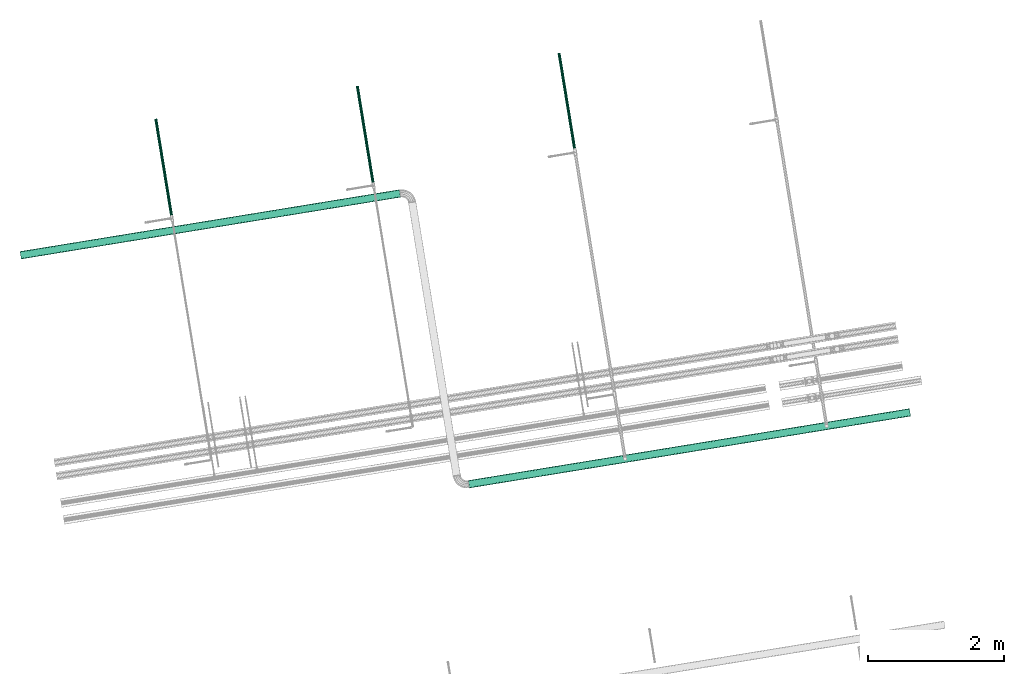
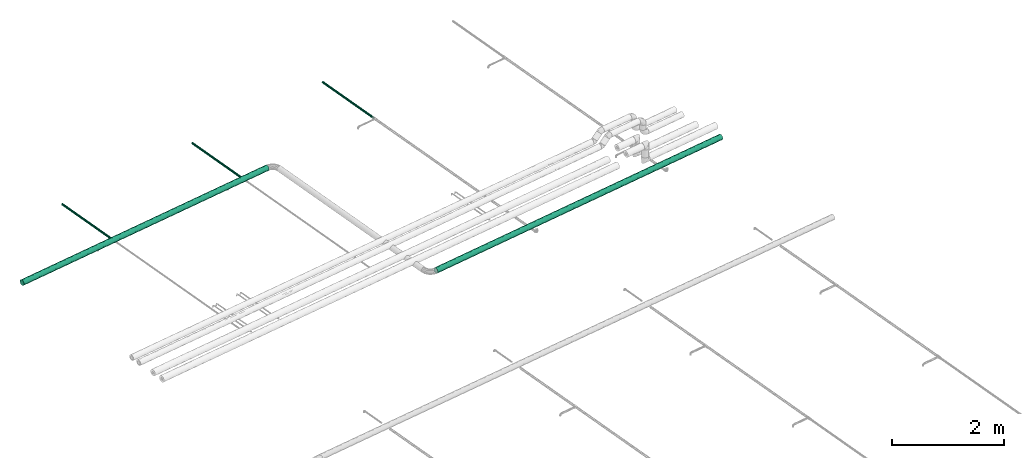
# One storey, part 52 of 56: 5 flow segments.
"""IFC2X3 building model written with IfcOpenShell, lengths in millimetres."""

from ifc_helpers import new_model, entity, si_unit, converted_unit, derived_unit, direction, frame, origin, origin_with_axes, place, context, subcontext, project, spatial, faceted_brep, material, type_object, element, save


model = new_model("IFC2X3")

# Units and contexts
model_context = context("Model", 3, precision=0.01, world=origin(), true_north=direction((6.12323399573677e-17, 1.0)))
plan_context = context("Plan", 3, precision=1e-05, world=origin_with_axes())
body_context = subcontext(model_context, "Body", "Model", "MODEL_VIEW")
ifc_project = project(units=[converted_unit("PLANEANGLEUNIT", "DEGREE", entity("IfcPositiveLengthMeasure", 0.0174532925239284), si_unit("PLANEANGLEUNIT", "RADIAN"), dimensions=[0, 0, 0, 0, 0, 0, 0]), si_unit("AREAUNIT", "SQUARE_METRE"), si_unit("LENGTHUNIT", "METRE", prefix="MILLI"), si_unit("MASSUNIT", "GRAM", prefix="KILO"), si_unit("POWERUNIT", "WATT"), si_unit("PRESSUREUNIT", "PASCAL", prefix="KILO"), si_unit("FORCEUNIT", "NEWTON", prefix="KILO"), si_unit("ELECTRICVOLTAGEUNIT", "VOLT"), si_unit("ELECTRICCURRENTUNIT", "AMPERE"), si_unit("THERMODYNAMICTEMPERATUREUNIT", "DEGREE_CELSIUS"), si_unit("TIMEUNIT", "SECOND"), si_unit("VOLUMEUNIT", "CUBIC_METRE"), derived_unit("LINEARVELOCITYUNIT", [(si_unit("LENGTHUNIT", "METRE"), 1), (si_unit("TIMEUNIT", "SECOND"), -1)]), derived_unit("VOLUMETRICFLOWRATEUNIT", [(si_unit("VOLUMEUNIT", "CUBIC_METRE"), 1), (si_unit("TIMEUNIT", "SECOND"), -1)]), derived_unit("THERMALTRANSMITTANCEUNIT", [(si_unit("POWERUNIT", "WATT"), 1), (si_unit("THERMODYNAMICTEMPERATUREUNIT", "KELVIN"), -1), (si_unit("AREAUNIT", "SQUARE_METRE"), -1)]), derived_unit("SOUNDPRESSUREUNIT", [(si_unit("PRESSUREUNIT", "PASCAL"), 1)])], contexts=[model_context, plan_context])

# Site, building, storey
site_placement = place(None, frame((-3.09682673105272e-06, 1.93776733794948e-05, 0.0), z_axis=(0.0, 0.0, 1.0), x_axis=(-0.160806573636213, 0.986985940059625, 0.0)))
site = spatial("IfcSite", under=ifc_project, at=site_placement, Name="Default", CompositionType="ELEMENT")
building_placement = place(site_placement, frame((0.0, 0.0, 0.0), z_axis=(0.0, 0.0, 1.0), x_axis=(1.0, -2.77555756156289e-17, 0.0)))
building = spatial("IfcBuilding", under=site, at=building_placement, Name="Bygning (endres i Project Information)", CompositionType="ELEMENT")
storey_placement = place(building_placement, frame((0.0, 0.0, 51360.0000000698), z_axis=(0.0, 0.0, 1.0), x_axis=(1.0, -2.77555756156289e-17, 0.0)))
storey = spatial("IfcBuildingStorey", under=building, at=storey_placement, Name="H01-Nivå D+0,36", CompositionType="ELEMENT", Elevation=51360.0000000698)

# Flow segments
ifc_material = material(Name="3320.001")
pipe_segment_type = type_object("IfcPipeSegmentType", Name="Pipe Types:Stålrør sveist og gjenget", PredefinedType="NOTDEFINED", material=ifc_material)
flow_segment_1_placement = place(storey_placement, frame((0.0, 0.0, 0.0), z_axis=(0.0, 0.0, 1.0), x_axis=(1.0, -2.77555756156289e-17, 0.0)))
element("IfcFlowSegment", 1, at=flow_segment_1_placement, inside=storey, type_object=pipe_segment_type, Name="Pipe Types:Stålrør sveist og gjenget", ObjectType="Pipe Types:Stålrør sveist og gjenget", context=body_context, shape_type="Brep", body=[
    faceted_brep([(1015034.55199947, -384051.763990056, 3409.92399363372), (1015035.42023641, -384051.763990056, 3400.0), (1015035.42023641, -389699.90511076, 3400.0), (1015034.55199947, -389699.90511076, 3409.92399363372), (1015034.55199947, -384051.763990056, 3390.07600636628), (1015034.55199947, -389699.90511076, 3390.07600636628), (1015031.97366959, -384051.763990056, 3380.45354825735), (1015031.97366959, -389699.90511076, 3380.45354825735), (1015027.76358802, -384051.763990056, 3371.42499919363), (1015027.76358802, -389699.90511076, 3371.42499919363), (1015022.04967596, -384051.763990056, 3363.26468706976), (1015022.04967596, -389699.90511076, 3363.26468706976), (1015015.00554773, -384051.763990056, 3356.22055884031), (1015015.00554773, -389699.90511076, 3356.22055884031), (1015006.8452356, -384051.763990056, 3350.50664677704), (1015006.8452356, -389699.90511076, 3350.50664677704), (1014997.81668654, -384051.763990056, 3346.2965652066), (1014997.81668654, -389699.90511076, 3346.2965652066), (1014988.19422843, -384051.763990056, 3343.71823532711), (1014988.19422843, -389699.90511076, 3343.71823532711), (1014978.2702348, -384051.763990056, 3342.84999838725), (1014978.2702348, -389699.90511076, 3342.84999838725), (1014968.34624116, -384051.763990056, 3343.71823532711), (1014968.34624116, -389699.90511076, 3343.71823532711), (1014958.72378305, -384051.763990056, 3346.2965652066), (1014958.72378305, -389699.90511076, 3346.2965652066), (1014949.69523399, -384051.763990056, 3350.50664677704), (1014949.69523399, -389699.90511076, 3350.50664677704), (1014941.53492187, -384051.763990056, 3356.22055884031), (1014941.53492187, -389699.90511076, 3356.22055884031), (1014934.49079364, -384051.763990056, 3363.26468706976), (1014934.49079364, -389699.90511076, 3363.26468706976), (1014928.77688157, -384051.763990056, 3371.42499919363), (1014928.77688157, -389699.90511076, 3371.42499919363), (1014924.5668, -384051.763990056, 3380.45354825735), (1014924.5668, -389699.90511076, 3380.45354825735), (1014921.98847012, -384051.763990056, 3390.07600636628), (1014921.98847012, -389699.90511076, 3390.07600636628), (1014921.12023318, -384051.763990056, 3400.0), (1014921.12023318, -389699.90511076, 3400.0), (1014921.98847012, -384051.763990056, 3409.92399363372), (1014921.98847012, -389699.90511076, 3409.92399363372), (1014924.5668, -384051.763990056, 3419.54645174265), (1014924.5668, -389699.90511076, 3419.54645174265), (1014928.77688157, -384051.763990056, 3428.57500080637), (1014928.77688157, -389699.90511076, 3428.57500080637), (1014934.49079364, -384051.763990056, 3436.73531293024), (1014934.49079364, -389699.90511076, 3436.73531293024), (1014941.53492187, -384051.763990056, 3443.77944115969), (1014941.53492187, -389699.90511076, 3443.77944115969), (1014949.69523399, -384051.763990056, 3449.49335322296), (1014949.69523399, -389699.90511076, 3449.49335322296), (1014958.72378305, -384051.763990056, 3453.7034347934), (1014958.72378305, -389699.90511076, 3453.7034347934), (1014968.34624116, -384051.763990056, 3456.28176467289), (1014968.34624116, -389699.90511076, 3456.28176467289), (1014978.2702348, -384051.763990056, 3457.15000161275), (1014978.2702348, -389699.90511076, 3457.15000161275), (1014988.19422843, -384051.763990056, 3456.28176467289), (1014988.19422843, -389699.90511076, 3456.28176467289), (1014997.81668654, -384051.763990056, 3453.7034347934), (1014997.81668654, -389699.90511076, 3453.7034347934), (1015006.8452356, -384051.763990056, 3449.49335322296), (1015006.8452356, -389699.90511076, 3449.49335322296), (1015015.00554773, -384051.763990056, 3443.77944115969), (1015015.00554773, -389699.90511076, 3443.77944115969), (1015022.04967596, -384051.763990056, 3436.73531293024), (1015022.04967596, -389699.90511076, 3436.73531293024), (1015027.76358802, -384051.763990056, 3428.57500080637), (1015027.76358802, -389699.90511076, 3428.57500080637), (1015031.97366959, -384051.763990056, 3419.54645174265), (1015031.97366959, -389699.90511076, 3419.54645174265)], [[[0, 1, 2, 3]], [[1, 4, 5, 2]], [[4, 6, 7, 5]], [[6, 8, 9, 7]], [[8, 10, 11, 9]], [[10, 12, 13, 11]], [[12, 14, 15, 13]], [[14, 16, 17, 15]], [[16, 18, 19, 17]], [[18, 20, 21, 19]], [[20, 22, 23, 21]], [[22, 24, 25, 23]], [[24, 26, 27, 25]], [[26, 28, 29, 27]], [[28, 30, 31, 29]], [[30, 32, 33, 31]], [[32, 34, 35, 33]], [[34, 36, 37, 35]], [[36, 38, 39, 37]], [[38, 40, 41, 39]], [[40, 42, 43, 41]], [[42, 44, 45, 43]], [[44, 46, 47, 45]], [[46, 48, 49, 47]], [[48, 50, 51, 49]], [[50, 52, 53, 51]], [[52, 54, 55, 53]], [[54, 56, 57, 55]], [[56, 58, 59, 57]], [[58, 60, 61, 59]], [[60, 62, 63, 61]], [[62, 64, 65, 63]], [[64, 66, 67, 65]], [[66, 68, 69, 67]], [[68, 70, 71, 69]], [[70, 0, 3, 71]], [[3, 2, 5, 7, 9, 11, 13, 15, 17, 19, 21, 23, 25, 27, 29, 31, 33, 35, 37, 39, 41, 43, 45, 47, 49, 51, 53, 55, 57, 59, 61, 63, 65, 67, 69, 71]], [[70, 68, 66, 64, 62, 60, 58, 56, 54, 52, 50, 48, 46, 44, 42, 40, 38, 36, 34, 32, 30, 28, 26, 24, 22, 20, 18, 16, 14, 12, 10, 8, 6, 4, 1, 0]]], orient=[[False], [False], [False], [False], [False], [False], [False], [False], [False], [False], [False], [False], [False], [False], [False], [False], [False], [False], [False], [False], [False], [False], [False], [False], [False], [False], [False], [False], [False], [False], [False], [False], [False], [False], [False], [False], [False], [False]]),
])
flow_segment_2_placement = place(storey_placement, frame((0.0, 0.0, 0.0), z_axis=(0.0, 0.0, 1.0), x_axis=(1.0, -2.77555756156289e-17, 0.0)))
element("IfcFlowSegment", 2, at=flow_segment_2_placement, inside=storey, type_object=pipe_segment_type, Name="Pipe Types:Stålrør sveist og gjenget", ObjectType="Pipe Types:Stålrør sveist og gjenget", context=body_context, shape_type="Brep", body=[
    faceted_brep([(1016638.36762345, -389313.027185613, 3196.31865849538), (1016638.36762345, -389312.705109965, 3200.0), (1015181.53557438, -389312.705109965, 3200.0), (1015181.53557438, -389313.027185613, 3196.31865849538), (1016638.36762345, -389313.027185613, 3203.68134150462), (1015181.53557438, -389313.027185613, 3203.68134150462), (1016638.36762345, -389313.983626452, 3207.25082731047), (1015181.53557438, -389313.983626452, 3207.25082731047), (1016638.36762345, -389315.545371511, 3210.60000039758), (1015181.53557438, -389315.545371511, 3210.60000039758), (1016638.36762345, -389317.664967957, 3213.62709783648), (1015181.53557438, -389317.664967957, 3213.62709783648), (1016638.36762345, -389320.278012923, 3216.24014280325), (1015181.53557438, -389320.278012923, 3216.24014280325), (1016638.36762345, -389323.305110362, 3218.35973924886), (1015181.53557438, -389323.305110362, 3218.35973924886), (1016638.36762345, -389326.654283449, 3219.92148430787), (1015181.53557438, -389326.654283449, 3219.92148430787), (1016638.36762345, -389330.223769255, 3220.87792514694), (1015181.53557438, -389330.223769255, 3220.87792514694), (1016638.36762345, -389333.90511076, 3221.20000079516), (1015181.53557438, -389333.90511076, 3221.20000079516), (1016638.36762345, -389337.586452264, 3220.87792514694), (1015181.53557438, -389337.586452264, 3220.87792514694), (1016638.36762345, -389341.15593807, 3219.92148430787), (1015181.53557438, -389341.15593807, 3219.92148430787), (1016638.36762345, -389344.505111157, 3218.35973924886), (1015181.53557438, -389344.505111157, 3218.35973924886), (1016638.36762345, -389347.532208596, 3216.24014280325), (1015181.53557438, -389347.532208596, 3216.24014280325), (1016638.36762345, -389350.145253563, 3213.62709783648), (1015181.53557438, -389350.145253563, 3213.62709783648), (1016638.36762345, -389352.264850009, 3210.60000039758), (1015181.53557438, -389352.264850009, 3210.60000039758), (1016638.36762345, -389353.826595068, 3207.25082731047), (1015181.53557438, -389353.826595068, 3207.25082731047), (1016638.36762345, -389354.783035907, 3203.68134150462), (1015181.53557438, -389354.783035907, 3203.68134150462), (1016638.36762345, -389355.105111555, 3200.0), (1015181.53557438, -389355.105111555, 3200.0), (1016638.36762345, -389354.783035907, 3196.31865849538), (1015181.53557438, -389354.783035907, 3196.31865849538), (1016638.36762345, -389353.826595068, 3192.74917268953), (1015181.53557438, -389353.826595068, 3192.74917268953), (1016638.36762345, -389352.264850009, 3189.39999960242), (1015181.53557438, -389352.264850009, 3189.39999960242), (1016638.36762345, -389350.145253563, 3186.37290216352), (1015181.53557438, -389350.145253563, 3186.37290216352), (1016638.36762345, -389347.532208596, 3183.75985719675), (1015181.53557438, -389347.532208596, 3183.75985719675), (1016638.36762345, -389344.505111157, 3181.64026075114), (1015181.53557438, -389344.505111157, 3181.64026075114), (1016638.36762345, -389341.15593807, 3180.07851569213), (1015181.53557438, -389341.15593807, 3180.07851569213), (1016638.36762345, -389337.586452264, 3179.12207485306), (1015181.53557438, -389337.586452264, 3179.12207485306), (1016638.36762345, -389333.90511076, 3178.79999920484), (1015181.53557438, -389333.90511076, 3178.79999920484), (1016638.36762345, -389330.223769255, 3179.12207485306), (1015181.53557438, -389330.223769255, 3179.12207485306), (1016638.36762345, -389326.654283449, 3180.07851569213), (1015181.53557438, -389326.654283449, 3180.07851569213), (1016638.36762345, -389323.305110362, 3181.64026075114), (1015181.53557438, -389323.305110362, 3181.64026075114), (1016638.36762345, -389320.278012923, 3183.75985719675), (1015181.53557438, -389320.278012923, 3183.75985719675), (1016638.36762345, -389317.664967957, 3186.37290216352), (1015181.53557438, -389317.664967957, 3186.37290216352), (1016638.36762345, -389315.545371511, 3189.39999960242), (1015181.53557438, -389315.545371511, 3189.39999960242), (1016638.36762345, -389313.983626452, 3192.74917268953), (1015181.53557438, -389313.983626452, 3192.74917268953)], [[[0, 1, 2, 3]], [[1, 4, 5, 2]], [[4, 6, 7, 5]], [[6, 8, 9, 7]], [[8, 10, 11, 9]], [[10, 12, 13, 11]], [[12, 14, 15, 13]], [[14, 16, 17, 15]], [[16, 18, 19, 17]], [[18, 20, 21, 19]], [[20, 22, 23, 21]], [[22, 24, 25, 23]], [[24, 26, 27, 25]], [[26, 28, 29, 27]], [[28, 30, 31, 29]], [[30, 32, 33, 31]], [[32, 34, 35, 33]], [[34, 36, 37, 35]], [[36, 38, 39, 37]], [[38, 40, 41, 39]], [[40, 42, 43, 41]], [[42, 44, 45, 43]], [[44, 46, 47, 45]], [[46, 48, 49, 47]], [[48, 50, 51, 49]], [[50, 52, 53, 51]], [[52, 54, 55, 53]], [[54, 56, 57, 55]], [[56, 58, 59, 57]], [[58, 60, 61, 59]], [[60, 62, 63, 61]], [[62, 64, 65, 63]], [[64, 66, 67, 65]], [[66, 68, 69, 67]], [[68, 70, 71, 69]], [[70, 0, 3, 71]], [[3, 2, 5, 7, 9, 11, 13, 15, 17, 19, 21, 23, 25, 27, 29, 31, 33, 35, 37, 39, 41, 43, 45, 47, 49, 51, 53, 55, 57, 59, 61, 63, 65, 67, 69, 71]], [[70, 68, 66, 64, 62, 60, 58, 56, 54, 52, 50, 48, 46, 44, 42, 40, 38, 36, 34, 32, 30, 28, 26, 24, 22, 20, 18, 16, 14, 12, 10, 8, 6, 4, 1, 0]]], orient=[[False], [False], [False], [False], [False], [False], [False], [False], [False], [False], [False], [False], [False], [False], [False], [False], [False], [False], [False], [False], [False], [False], [False], [False], [False], [False], [False], [False], [False], [False], [False], [False], [False], [False], [False], [False], [False], [False]]),
])
flow_segment_3_placement = place(storey_placement, frame((0.0, 0.0, 0.0), z_axis=(0.0, 0.0, 1.0), x_axis=(1.0, -2.77555756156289e-17, 0.0)))
element("IfcFlowSegment", 3, at=flow_segment_3_placement, inside=storey, type_object=pipe_segment_type, Name="Pipe Types:Stålrør sveist og gjenget", ObjectType="Pipe Types:Stålrør sveist og gjenget", context=body_context, shape_type="Brep", body=[
    faceted_brep([(1016638.36762345, -386313.027185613, 3196.31865849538), (1016638.36762345, -386312.705109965, 3200.0), (1015181.53557438, -386312.705109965, 3200.0), (1015181.53557438, -386313.027185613, 3196.31865849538), (1016638.36762345, -386313.027185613, 3203.68134150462), (1015181.53557438, -386313.027185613, 3203.68134150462), (1016638.36762345, -386313.983626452, 3207.25082731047), (1015181.53557438, -386313.983626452, 3207.25082731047), (1016638.36762345, -386315.545371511, 3210.60000039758), (1015181.53557438, -386315.545371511, 3210.60000039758), (1016638.36762345, -386317.664967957, 3213.62709783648), (1015181.53557438, -386317.664967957, 3213.62709783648), (1016638.36762345, -386320.278012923, 3216.24014280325), (1015181.53557438, -386320.278012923, 3216.24014280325), (1016638.36762345, -386323.305110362, 3218.35973924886), (1015181.53557438, -386323.305110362, 3218.35973924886), (1016638.36762345, -386326.654283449, 3219.92148430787), (1015181.53557438, -386326.654283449, 3219.92148430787), (1016638.36762345, -386330.223769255, 3220.87792514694), (1015181.53557438, -386330.223769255, 3220.87792514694), (1016638.36762345, -386333.90511076, 3221.20000079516), (1015181.53557438, -386333.90511076, 3221.20000079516), (1016638.36762345, -386337.586452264, 3220.87792514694), (1015181.53557438, -386337.586452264, 3220.87792514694), (1016638.36762345, -386341.15593807, 3219.92148430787), (1015181.53557438, -386341.15593807, 3219.92148430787), (1016638.36762345, -386344.505111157, 3218.35973924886), (1015181.53557438, -386344.505111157, 3218.35973924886), (1016638.36762345, -386347.532208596, 3216.24014280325), (1015181.53557438, -386347.532208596, 3216.24014280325), (1016638.36762345, -386350.145253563, 3213.62709783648), (1015181.53557438, -386350.145253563, 3213.62709783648), (1016638.36762345, -386352.264850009, 3210.60000039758), (1015181.53557438, -386352.264850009, 3210.60000039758), (1016638.36762345, -386353.826595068, 3207.25082731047), (1015181.53557438, -386353.826595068, 3207.25082731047), (1016638.36762345, -386354.783035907, 3203.68134150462), (1015181.53557438, -386354.783035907, 3203.68134150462), (1016638.36762345, -386355.105111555, 3200.0), (1015181.53557438, -386355.105111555, 3200.0), (1016638.36762345, -386354.783035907, 3196.31865849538), (1015181.53557438, -386354.783035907, 3196.31865849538), (1016638.36762345, -386353.826595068, 3192.74917268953), (1015181.53557438, -386353.826595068, 3192.74917268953), (1016638.36762345, -386352.264850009, 3189.39999960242), (1015181.53557438, -386352.264850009, 3189.39999960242), (1016638.36762345, -386350.145253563, 3186.37290216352), (1015181.53557438, -386350.145253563, 3186.37290216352), (1016638.36762345, -386347.532208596, 3183.75985719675), (1015181.53557438, -386347.532208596, 3183.75985719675), (1016638.36762345, -386344.505111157, 3181.64026075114), (1015181.53557438, -386344.505111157, 3181.64026075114), (1016638.36762345, -386341.15593807, 3180.07851569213), (1015181.53557438, -386341.15593807, 3180.07851569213), (1016638.36762345, -386337.586452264, 3179.12207485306), (1015181.53557438, -386337.586452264, 3179.12207485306), (1016638.36762345, -386333.90511076, 3178.79999920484), (1015181.53557438, -386333.90511076, 3178.79999920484), (1016638.36762345, -386330.223769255, 3179.12207485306), (1015181.53557438, -386330.223769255, 3179.12207485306), (1016638.36762345, -386326.654283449, 3180.07851569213), (1015181.53557438, -386326.654283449, 3180.07851569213), (1016638.36762345, -386323.305110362, 3181.64026075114), (1015181.53557438, -386323.305110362, 3181.64026075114), (1016638.36762345, -386320.278012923, 3183.75985719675), (1015181.53557438, -386320.278012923, 3183.75985719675), (1016638.36762345, -386317.664967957, 3186.37290216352), (1015181.53557438, -386317.664967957, 3186.37290216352), (1016638.36762345, -386315.545371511, 3189.39999960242), (1015181.53557438, -386315.545371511, 3189.39999960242), (1016638.36762345, -386313.983626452, 3192.74917268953), (1015181.53557438, -386313.983626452, 3192.74917268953)], [[[0, 1, 2, 3]], [[1, 4, 5, 2]], [[4, 6, 7, 5]], [[6, 8, 9, 7]], [[8, 10, 11, 9]], [[10, 12, 13, 11]], [[12, 14, 15, 13]], [[14, 16, 17, 15]], [[16, 18, 19, 17]], [[18, 20, 21, 19]], [[20, 22, 23, 21]], [[22, 24, 25, 23]], [[24, 26, 27, 25]], [[26, 28, 29, 27]], [[28, 30, 31, 29]], [[30, 32, 33, 31]], [[32, 34, 35, 33]], [[34, 36, 37, 35]], [[36, 38, 39, 37]], [[38, 40, 41, 39]], [[40, 42, 43, 41]], [[42, 44, 45, 43]], [[44, 46, 47, 45]], [[46, 48, 49, 47]], [[48, 50, 51, 49]], [[50, 52, 53, 51]], [[52, 54, 55, 53]], [[54, 56, 57, 55]], [[56, 58, 59, 57]], [[58, 60, 61, 59]], [[60, 62, 63, 61]], [[62, 64, 65, 63]], [[64, 66, 67, 65]], [[66, 68, 69, 67]], [[68, 70, 71, 69]], [[70, 0, 3, 71]], [[3, 2, 5, 7, 9, 11, 13, 15, 17, 19, 21, 23, 25, 27, 29, 31, 33, 35, 37, 39, 41, 43, 45, 47, 49, 51, 53, 55, 57, 59, 61, 63, 65, 67, 69, 71]], [[70, 68, 66, 64, 62, 60, 58, 56, 54, 52, 50, 48, 46, 44, 42, 40, 38, 36, 34, 32, 30, 28, 26, 24, 22, 20, 18, 16, 14, 12, 10, 8, 6, 4, 1, 0]]], orient=[[False], [False], [False], [False], [False], [False], [False], [False], [False], [False], [False], [False], [False], [False], [False], [False], [False], [False], [False], [False], [False], [False], [False], [False], [False], [False], [False], [False], [False], [False], [False], [False], [False], [False], [False], [False], [False], [False]]),
])
flow_segment_4_placement = place(storey_placement, frame((0.0, 0.0, 0.0), z_axis=(0.0, 0.0, 1.0), x_axis=(1.0, -2.77555756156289e-17, 0.0)))
element("IfcFlowSegment", 4, at=flow_segment_4_placement, inside=storey, type_object=pipe_segment_type, Name="Pipe Types:Stålrør sveist og gjenget", ObjectType="Pipe Types:Stålrør sveist og gjenget", context=body_context, shape_type="Brep", body=[
    faceted_brep([(1016638.36762345, -392316.02718765, 3196.31865849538), (1016638.36762345, -392315.705112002, 3200.0), (1015201.53557438, -392315.705112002, 3200.0), (1015201.53557438, -392316.02718765, 3196.31865849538), (1016638.36762345, -392316.02718765, 3203.68134150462), (1015201.53557438, -392316.02718765, 3203.68134150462), (1016638.36762345, -392316.983628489, 3207.25082731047), (1015201.53557438, -392316.983628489, 3207.25082731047), (1016638.36762345, -392318.545373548, 3210.60000039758), (1015201.53557438, -392318.545373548, 3210.60000039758), (1016638.36762345, -392320.664969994, 3213.62709783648), (1015201.53557438, -392320.664969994, 3213.62709783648), (1016638.36762345, -392323.278014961, 3216.24014280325), (1015201.53557438, -392323.278014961, 3216.24014280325), (1016638.36762345, -392326.3051124, 3218.35973924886), (1015201.53557438, -392326.3051124, 3218.35973924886), (1016638.36762345, -392329.654285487, 3219.92148430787), (1015201.53557438, -392329.654285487, 3219.92148430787), (1016638.36762345, -392333.223771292, 3220.87792514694), (1015201.53557438, -392333.223771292, 3220.87792514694), (1016638.36762345, -392336.905112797, 3221.20000079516), (1015201.53557438, -392336.905112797, 3221.20000079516), (1016638.36762345, -392340.586454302, 3220.87792514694), (1015201.53557438, -392340.586454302, 3220.87792514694), (1016638.36762345, -392344.155940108, 3219.92148430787), (1015201.53557438, -392344.155940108, 3219.92148430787), (1016638.36762345, -392347.505113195, 3218.35973924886), (1015201.53557438, -392347.505113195, 3218.35973924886), (1016638.36762345, -392350.532210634, 3216.24014280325), (1015201.53557438, -392350.532210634, 3216.24014280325), (1016638.36762345, -392353.1452556, 3213.62709783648), (1015201.53557438, -392353.1452556, 3213.62709783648), (1016638.36762345, -392355.264852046, 3210.60000039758), (1015201.53557438, -392355.264852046, 3210.60000039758), (1016638.36762345, -392356.826597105, 3207.25082731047), (1015201.53557438, -392356.826597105, 3207.25082731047), (1016638.36762345, -392357.783037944, 3203.68134150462), (1015201.53557438, -392357.783037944, 3203.68134150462), (1016638.36762345, -392358.105113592, 3200.0), (1015201.53557438, -392358.105113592, 3200.0), (1016638.36762345, -392357.783037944, 3196.31865849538), (1015201.53557438, -392357.783037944, 3196.31865849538), (1016638.36762345, -392356.826597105, 3192.74917268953), (1015201.53557438, -392356.826597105, 3192.74917268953), (1016638.36762345, -392355.264852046, 3189.39999960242), (1015201.53557438, -392355.264852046, 3189.39999960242), (1016638.36762345, -392353.1452556, 3186.37290216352), (1015201.53557438, -392353.1452556, 3186.37290216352), (1016638.36762345, -392350.532210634, 3183.75985719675), (1015201.53557438, -392350.532210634, 3183.75985719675), (1016638.36762345, -392347.505113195, 3181.64026075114), (1015201.53557438, -392347.505113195, 3181.64026075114), (1016638.36762345, -392344.155940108, 3180.07851569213), (1015201.53557438, -392344.155940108, 3180.07851569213), (1016638.36762345, -392340.586454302, 3179.12207485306), (1015201.53557438, -392340.586454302, 3179.12207485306), (1016638.36762345, -392336.905112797, 3178.79999920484), (1015201.53557438, -392336.905112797, 3178.79999920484), (1016638.36762345, -392333.223771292, 3179.12207485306), (1015201.53557438, -392333.223771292, 3179.12207485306), (1016638.36762345, -392329.654285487, 3180.07851569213), (1015201.53557438, -392329.654285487, 3180.07851569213), (1016638.36762345, -392326.3051124, 3181.64026075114), (1015201.53557438, -392326.3051124, 3181.64026075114), (1016638.36762345, -392323.278014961, 3183.75985719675), (1015201.53557438, -392323.278014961, 3183.75985719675), (1016638.36762345, -392320.664969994, 3186.37290216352), (1015201.53557438, -392320.664969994, 3186.37290216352), (1016638.36762345, -392318.545373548, 3189.39999960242), (1015201.53557438, -392318.545373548, 3189.39999960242), (1016638.36762345, -392316.983628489, 3192.74917268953), (1015201.53557438, -392316.983628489, 3192.74917268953)], [[[0, 1, 2, 3]], [[1, 4, 5, 2]], [[4, 6, 7, 5]], [[6, 8, 9, 7]], [[8, 10, 11, 9]], [[10, 12, 13, 11]], [[12, 14, 15, 13]], [[14, 16, 17, 15]], [[16, 18, 19, 17]], [[18, 20, 21, 19]], [[20, 22, 23, 21]], [[22, 24, 25, 23]], [[24, 26, 27, 25]], [[26, 28, 29, 27]], [[28, 30, 31, 29]], [[30, 32, 33, 31]], [[32, 34, 35, 33]], [[34, 36, 37, 35]], [[36, 38, 39, 37]], [[38, 40, 41, 39]], [[40, 42, 43, 41]], [[42, 44, 45, 43]], [[44, 46, 47, 45]], [[46, 48, 49, 47]], [[48, 50, 51, 49]], [[50, 52, 53, 51]], [[52, 54, 55, 53]], [[54, 56, 57, 55]], [[56, 58, 59, 57]], [[58, 60, 61, 59]], [[60, 62, 63, 61]], [[62, 64, 65, 63]], [[64, 66, 67, 65]], [[66, 68, 69, 67]], [[68, 70, 71, 69]], [[70, 0, 3, 71]], [[3, 2, 5, 7, 9, 11, 13, 15, 17, 19, 21, 23, 25, 27, 29, 31, 33, 35, 37, 39, 41, 43, 45, 47, 49, 51, 53, 55, 57, 59, 61, 63, 65, 67, 69, 71]], [[70, 68, 66, 64, 62, 60, 58, 56, 54, 52, 50, 48, 46, 44, 42, 40, 38, 36, 34, 32, 30, 28, 26, 24, 22, 20, 18, 16, 14, 12, 10, 8, 6, 4, 1, 0]]], orient=[[False], [False], [False], [False], [False], [False], [False], [False], [False], [False], [False], [False], [False], [False], [False], [False], [False], [False], [False], [False], [False], [False], [False], [False], [False], [False], [False], [False], [False], [False], [False], [False], [False], [False], [False], [False], [False], [False]]),
])
flow_segment_5_placement = place(storey_placement, frame((0.0, 0.0, 0.0), z_axis=(0.0, 0.0, 1.0), x_axis=(1.0, -2.77555756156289e-17, 0.0)))
element("IfcFlowSegment", 5, at=flow_segment_5_placement, inside=storey, type_object=pipe_segment_type, Name="Pipe Types:Stålrør sveist og gjenget", ObjectType="Pipe Types:Stålrør sveist og gjenget", context=body_context, shape_type="Brep", body=[
    faceted_brep([(1010655.42023641, -396579.084056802, 3400.0), (1010654.55199947, -396579.084056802, 3409.92399363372), (1010654.55199947, -390009.90511076, 3409.92399363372), (1010655.42023641, -390009.90511076, 3400.0), (1010654.55199947, -396579.084056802, 3390.07600636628), (1010654.55199947, -390009.90511076, 3390.07600636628), (1010651.97366959, -396579.084056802, 3380.45354825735), (1010651.97366959, -390009.90511076, 3380.45354825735), (1010647.76358802, -396579.084056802, 3371.42499919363), (1010647.76358802, -390009.90511076, 3371.42499919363), (1010642.04967596, -396579.084056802, 3363.26468706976), (1010642.04967596, -390009.90511076, 3363.26468706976), (1010635.00554773, -396579.084056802, 3356.22055884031), (1010635.00554773, -390009.90511076, 3356.22055884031), (1010626.8452356, -396579.084056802, 3350.50664677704), (1010626.8452356, -390009.90511076, 3350.50664677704), (1010617.81668654, -396579.084056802, 3346.2965652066), (1010617.81668654, -390009.90511076, 3346.2965652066), (1010608.19422843, -396579.084056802, 3343.71823532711), (1010608.19422843, -390009.90511076, 3343.71823532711), (1010598.2702348, -396579.084056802, 3342.84999838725), (1010598.2702348, -390009.90511076, 3342.84999838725), (1010588.34624116, -396579.084056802, 3343.71823532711), (1010588.34624116, -390009.90511076, 3343.71823532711), (1010578.72378305, -396579.084056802, 3346.2965652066), (1010578.72378305, -390009.90511076, 3346.2965652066), (1010569.69523399, -396579.084056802, 3350.50664677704), (1010569.69523399, -390009.90511076, 3350.50664677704), (1010561.53492187, -396579.084056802, 3356.22055884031), (1010561.53492187, -390009.90511076, 3356.22055884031), (1010554.49079364, -396579.084056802, 3363.26468706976), (1010554.49079364, -390009.90511076, 3363.26468706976), (1010548.77688157, -396579.084056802, 3371.42499919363), (1010548.77688157, -390009.90511076, 3371.42499919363), (1010544.5668, -396579.084056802, 3380.45354825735), (1010544.5668, -390009.90511076, 3380.45354825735), (1010541.98847012, -396579.084056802, 3390.07600636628), (1010541.98847012, -390009.90511076, 3390.07600636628), (1010541.12023318, -396579.084056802, 3400.0), (1010541.12023318, -390009.90511076, 3400.0), (1010541.98847012, -396579.084056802, 3409.92399363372), (1010541.98847012, -390009.90511076, 3409.92399363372), (1010544.5668, -396579.084056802, 3419.54645174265), (1010544.5668, -390009.90511076, 3419.54645174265), (1010548.77688157, -396579.084056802, 3428.57500080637), (1010548.77688157, -390009.90511076, 3428.57500080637), (1010554.49079364, -396579.084056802, 3436.73531293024), (1010554.49079364, -390009.90511076, 3436.73531293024), (1010561.53492187, -396579.084056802, 3443.77944115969), (1010561.53492187, -390009.90511076, 3443.77944115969), (1010569.69523399, -396579.084056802, 3449.49335322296), (1010569.69523399, -390009.90511076, 3449.49335322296), (1010578.72378305, -396579.084056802, 3453.7034347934), (1010578.72378305, -390009.90511076, 3453.7034347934), (1010588.34624116, -396579.084056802, 3456.28176467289), (1010588.34624116, -390009.90511076, 3456.28176467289), (1010598.2702348, -396579.084056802, 3457.15000161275), (1010598.2702348, -390009.90511076, 3457.15000161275), (1010608.19422843, -396579.084056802, 3456.28176467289), (1010608.19422843, -390009.90511076, 3456.28176467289), (1010617.81668654, -396579.084056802, 3453.7034347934), (1010617.81668654, -390009.90511076, 3453.7034347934), (1010626.8452356, -396579.084056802, 3449.49335322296), (1010626.8452356, -390009.90511076, 3449.49335322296), (1010635.00554773, -396579.084056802, 3443.77944115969), (1010635.00554773, -390009.90511076, 3443.77944115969), (1010642.04967596, -396579.084056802, 3436.73531293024), (1010642.04967596, -390009.90511076, 3436.73531293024), (1010647.76358802, -396579.084056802, 3428.57500080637), (1010647.76358802, -390009.90511076, 3428.57500080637), (1010651.97366959, -396579.084056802, 3419.54645174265), (1010651.97366959, -390009.90511076, 3419.54645174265)], [[[0, 1, 2, 3]], [[4, 0, 3, 5]], [[6, 4, 5, 7]], [[8, 6, 7, 9]], [[10, 8, 9, 11]], [[12, 10, 11, 13]], [[14, 12, 13, 15]], [[16, 14, 15, 17]], [[18, 16, 17, 19]], [[20, 18, 19, 21]], [[22, 20, 21, 23]], [[24, 22, 23, 25]], [[26, 24, 25, 27]], [[28, 26, 27, 29]], [[30, 28, 29, 31]], [[32, 30, 31, 33]], [[34, 32, 33, 35]], [[36, 34, 35, 37]], [[38, 36, 37, 39]], [[40, 38, 39, 41]], [[42, 40, 41, 43]], [[44, 42, 43, 45]], [[46, 44, 45, 47]], [[48, 46, 47, 49]], [[50, 48, 49, 51]], [[52, 50, 51, 53]], [[54, 52, 53, 55]], [[56, 54, 55, 57]], [[58, 56, 57, 59]], [[60, 58, 59, 61]], [[62, 60, 61, 63]], [[64, 62, 63, 65]], [[66, 64, 65, 67]], [[68, 66, 67, 69]], [[70, 68, 69, 71]], [[1, 70, 71, 2]], [[3, 2, 71, 69, 67, 65, 63, 61, 59, 57, 55, 53, 51, 49, 47, 45, 43, 41, 39, 37, 35, 33, 31, 29, 27, 25, 23, 21, 19, 17, 15, 13, 11, 9, 7, 5]], [[4, 6, 8, 10, 12, 14, 16, 18, 20, 22, 24, 26, 28, 30, 32, 34, 36, 38, 40, 42, 44, 46, 48, 50, 52, 54, 56, 58, 60, 62, 64, 66, 68, 70, 1, 0]]], orient=[[False], [False], [False], [False], [False], [False], [False], [False], [False], [False], [False], [False], [False], [False], [False], [False], [False], [False], [False], [False], [False], [False], [False], [False], [False], [False], [False], [False], [False], [False], [False], [False], [False], [False], [False], [False], [False], [False]]),
])

save(model, "model.ifc")
